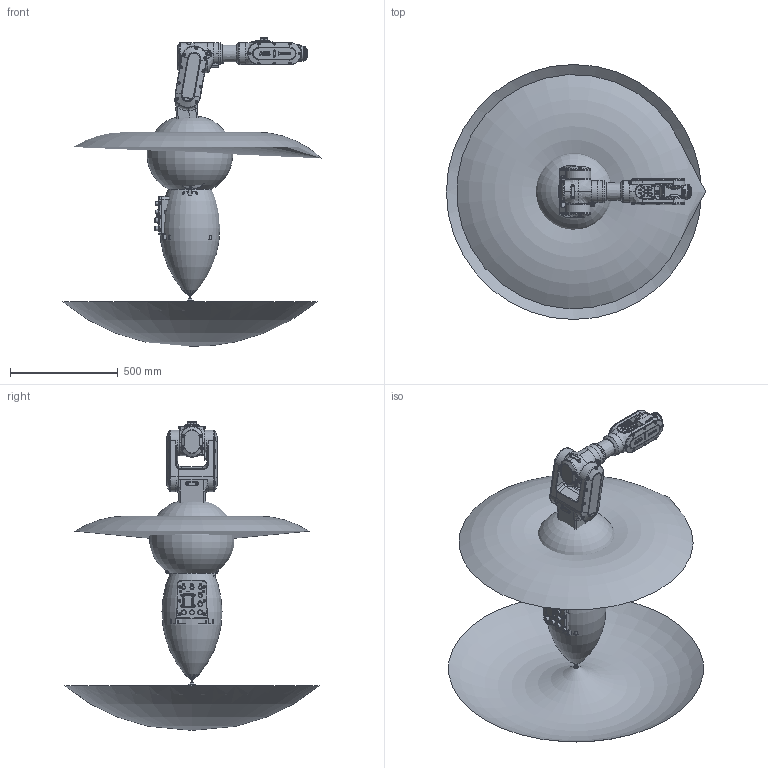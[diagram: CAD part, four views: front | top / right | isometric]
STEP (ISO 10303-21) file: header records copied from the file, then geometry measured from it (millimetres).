
FILE_DESCRIPTION (( 'STEP AP203' ), '1' );
FILE_NAME ('IRB1200GEN2_5kg-910_STD_OC_00_ASM.STEP', '2025-06-16T02:27:08', ( '' ), ( '' ), 'SwSTEP 2.0', 'SolidWorks 2022', '' );
FILE_SCHEMA (( 'CONFIG_CONTROL_DESIGN' ));
Length unit declared in the file: millimetre
Products named in the file (9): IRB1200GEN2_5kg-910_STD_OC_00_Link06L_CAD; IRB1200GEN2_5kg-910_STD_OC_00_ASM; IRB1200GEN2_5kg-910_STD_OC_00_Link04L_CAD; IRB1200GEN2_5kg-910_STD_OC_00_Link05L_CAD; IRB1200GEN2_5kg-910_STD_OC_00_Link02L_CAD; IRB1200GEN2_5kg-910_STD_OC_00_Working-space; IRB1200GEN2_5kg-910_STD_OC_00_Link01_CAD; IRB1200GEN2_5kg-910_STD_OC_00_Link03L_CAD; IRB1200GEN2_5kg-910_STD_OC_00_BASE_CAD
Assembly tree (8 placements, depth 2):
  IRB1200GEN2_5kg-910_STD_OC_00_ASM
    IRB1200GEN2_5kg-910_STD_OC_00_BASE_CAD
    IRB1200GEN2_5kg-910_STD_OC_00_Link01_CAD
    IRB1200GEN2_5kg-910_STD_OC_00_Link02L_CAD
    IRB1200GEN2_5kg-910_STD_OC_00_Link03L_CAD
    IRB1200GEN2_5kg-910_STD_OC_00_Link04L_CAD
    IRB1200GEN2_5kg-910_STD_OC_00_Link05L_CAD
    IRB1200GEN2_5kg-910_STD_OC_00_Link06L_CAD
    IRB1200GEN2_5kg-910_STD_OC_00_Working-space
Bounding box: 1204.6 x 1185.06 x 1434.33 mm (x, y, z)
Volume: 332303775.4 mm3; surface area: 5900561.8 mm2
Topology: 8 solids, 9 shells, 4056 faces, 9842 edges, 6101 vertices
Faces by surface type: plane 1492, bspline 1242, cylinder 797, torus 287, cone 204, sphere 34
Full cylindrical faces by diameter (mm): 2.5 x2, 3.3 x16, 4.2 x4, 5 x2, 5.5 x11, 5.68 x4, 6 x2, 6.8 x4, 7 x70, 9 x64, 9.9 x12, 10 x4, 11.3 x1, 13 x2, 13.5 x4, 14 x8, 16 x4, 18 x3, 20 x4, 20.5 x1, 40 x1, 52.5 x1, 65 x4, 69.5 x1, 95 x2, 97 x1, 101.999 x1, 102 x1, 118 x1, 129 x2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
Entity records: 236268 total; most frequent: CARTESIAN_POINT 152387, ORIENTED_EDGE 18502, DIRECTION 14400, EDGE_CURVE 9251, VERTEX_POINT 5906, AXIS2_PLACEMENT_3D 5314, EDGE_LOOP 4779, FACE_OUTER_BOUND 4347
